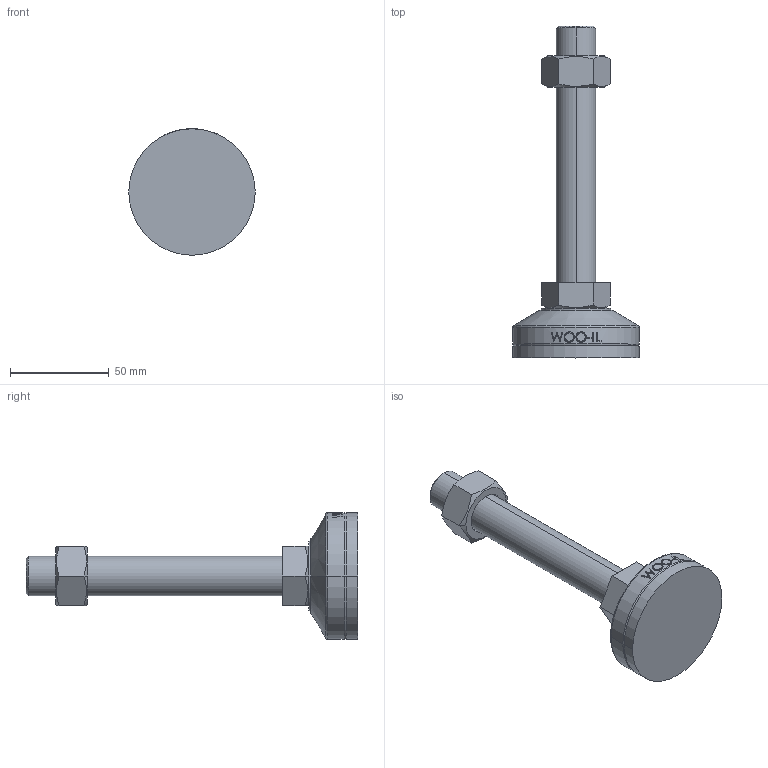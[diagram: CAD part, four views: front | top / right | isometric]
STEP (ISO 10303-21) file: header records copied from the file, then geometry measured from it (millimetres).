
FILE_DESCRIPTION (( 'STEP AP214' ), '1' );
FILE_NAME ('MFR64-M20-130.step', '2021-01-13T05:38:29', ( '' ), ( '' ), 'SwSTEP 2.0', 'SolidWorks 2019', '' );
FILE_SCHEMA (( 'AUTOMOTIVE_DESIGN' ));
Length unit declared in the file: millimetre
Products named in the file (2): MFR64-M20-130
Bounding box: 64 x 168 x 64 mm (x, y, z)
Volume: 126940.2 mm3; surface area: 24819.9 mm2
Topology: 3 solids, 3 shells, 102 faces, 235 edges, 150 vertices
Faces by surface type: plane 48, cylinder 18, bspline 16, cone 14, torus 6
Entity records: 4386 total; most frequent: CARTESIAN_POINT 2131, ORIENTED_EDGE 470, DIRECTION 415, EDGE_CURVE 235, AXIS2_PLACEMENT_3D 158, VERTEX_POINT 150, EDGE_LOOP 115, ADVANCED_FACE 102
